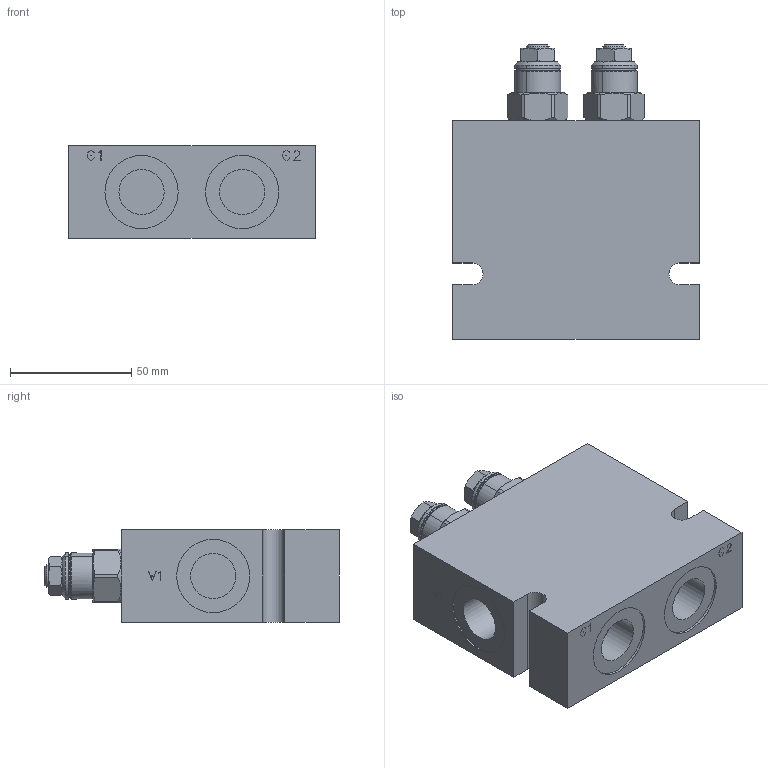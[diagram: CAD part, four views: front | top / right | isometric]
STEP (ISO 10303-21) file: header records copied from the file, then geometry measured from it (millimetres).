
FILE_DESCRIPTION(/* description */ ('Unknown'),/* implementation_level */ '2;1');
FILE_NAME(/* name */ 'RF LC5050',/* time_stamp */ '2022-11-07T16:18:48+00:00',/* author */ ('Unknown'),/* organization */ ('Unknown'),/* preprocessor_version */ 'ST-DEVELOPER v18.1',/* originating_system */ 'Solid Edge',/* authorisation */ 'Unknown');
FILE_SCHEMA (('AP242_MANAGED_MODEL_BASED_3D_ENGINEERING_MIM_LF { 1 0 10303 442 1 1 4 }','AUTOMOTIVE_DESIGN {1 0 10303 214 3 1 1}'));
Length unit declared in the file: millimetre
Products named in the file (3): RF 5050; M-5050; R-CBRT11A3SHN
Assembly tree (3 placements, depth 2):
  RF 5050
    M-5050
    R-CBRT11A3SHN  x2
Bounding box: 101.6 x 121.51 x 38 mm (x, y, z)
Volume: 351277.3 mm3; surface area: 67358.9 mm2
Topology: 3 solids, 3 shells, 1511 faces, 3702 edges, 2318 vertices
Faces by surface type: plane 730, cylinder 391, cone 234, torus 148, bspline 8
Full cylindrical faces by diameter (mm): 0.2 x8, 18.631 x4, 21.87 x2, 25.4 x2, 30.17 x4
Entity records: 31947 total; most frequent: CARTESIAN_POINT 9472, ORIENTED_EDGE 5196, DIRECTION 3645, EDGE_CURVE 2598, VERTEX_POINT 1671, AXIS2_PLACEMENT_3D 1390, B_SPLINE_CURVE_WITH_KNOTS 1382, EDGE_LOOP 1179
